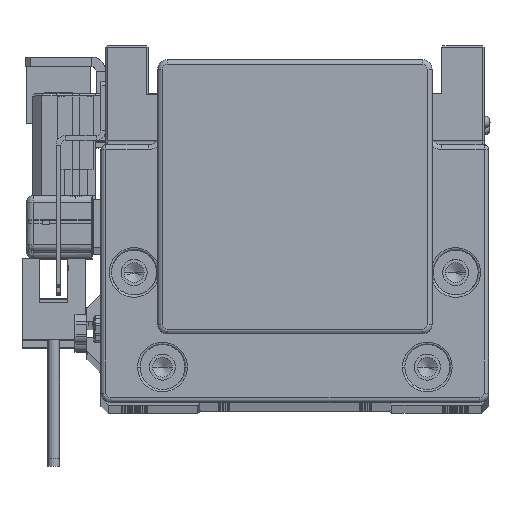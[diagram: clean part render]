
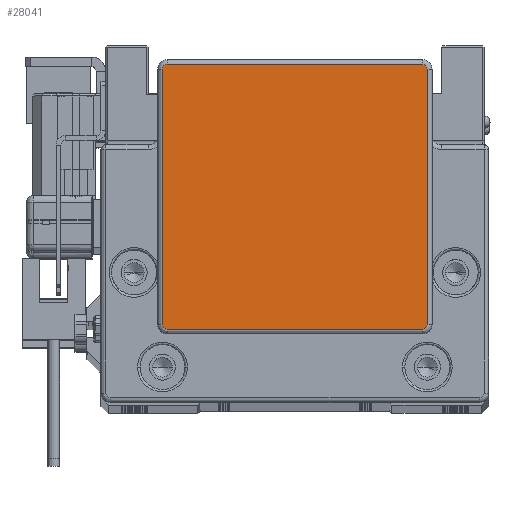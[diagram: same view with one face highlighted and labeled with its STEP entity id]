
A CAD part, top view. The second image highlights one B-rep face of the part: STEP entity #28041.
In plain terms, the highlighted planar face has unit normal (0, 0, 1).
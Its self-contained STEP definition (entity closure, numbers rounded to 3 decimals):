
#71 = ORIENTED_EDGE ( 'NONE', *, *, #19617, .T. ) ;
#1530 = DIRECTION ( 'NONE',  ( 1., 0., 0. ) ) ;
#1636 = EDGE_CURVE ( 'NONE', #23384, #18280, #5628, .T. ) ;
#2102 = CARTESIAN_POINT ( 'NONE',  ( -27., -19.75, 17. ) ) ;
#2563 = ORIENTED_EDGE ( 'NONE', *, *, #26200, .T. ) ;
#2907 = DIRECTION ( 'NONE',  ( 1., 0., 0. ) ) ;
#5628 = LINE ( 'NONE', #15242, #36863 ) ;
#7070 = VERTEX_POINT ( 'NONE', #51657 ) ;
#7829 = AXIS2_PLACEMENT_3D ( 'NONE', #30378, #21689, #1530 ) ;
#8802 = CIRCLE ( 'NONE', #7829, 1. ) ;
#9562 = VERTEX_POINT ( 'NONE', #32036 ) ;
#12345 = AXIS2_PLACEMENT_3D ( 'NONE', #45450, #37058, #2907 ) ;
#12984 = VECTOR ( 'NONE', #14502, 1000. ) ;
#13807 = CARTESIAN_POINT ( 'NONE',  ( 27., -20.75, 17. ) ) ;
#14120 = DIRECTION ( 'NONE',  ( 1., 0., 0. ) ) ;
#14502 = DIRECTION ( 'NONE',  ( 0., 1., 0. ) ) ;
#15122 = LINE ( 'NONE', #38121, #12984 ) ;
#15242 = CARTESIAN_POINT ( 'NONE',  ( -28., -19.75, 17. ) ) ;
#15747 = VERTEX_POINT ( 'NONE', #24841 ) ;
#16095 = VECTOR ( 'NONE', #36791, 1000. ) ;
#16917 = CARTESIAN_POINT ( 'NONE',  ( -28., 34.25, 17. ) ) ;
#16958 = DIRECTION ( 'NONE',  ( 0., 0., 1. ) ) ;
#16964 = VERTEX_POINT ( 'NONE', #44157 ) ;
#17886 = CARTESIAN_POINT ( 'NONE',  ( 27., -19.75, 17. ) ) ;
#18038 = CARTESIAN_POINT ( 'NONE',  ( -27., 34.25, 17. ) ) ;
#18280 = VERTEX_POINT ( 'NONE', #26460 ) ;
#19617 = EDGE_CURVE ( 'NONE', #7070, #15747, #37585, .T. ) ;
#19802 = CARTESIAN_POINT ( 'NONE',  ( -27., -20.75, 17. ) ) ;
#20740 = PLANE ( 'NONE',  #53682 ) ;
#21257 = LINE ( 'NONE', #21567, #16095 ) ;
#21567 = CARTESIAN_POINT ( 'NONE',  ( -27., 35.25, 17. ) ) ;
#21689 = DIRECTION ( 'NONE',  ( 0., 0., 1. ) ) ;
#21731 = EDGE_LOOP ( 'NONE', ( #49126, #23422, #58097, #40400, #54291, #71, #39904, #2563 ) ) ;
#22702 = DIRECTION ( 'NONE',  ( 0., 0., 1. ) ) ;
#23384 = VERTEX_POINT ( 'NONE', #16917 ) ;
#23422 = ORIENTED_EDGE ( 'NONE', *, *, #55055, .T. ) ;
#24841 = CARTESIAN_POINT ( 'NONE',  ( 28., -19.75, 17. ) ) ;
#24968 = AXIS2_PLACEMENT_3D ( 'NONE', #18038, #22702, #55025 ) ;
#25419 = FACE_OUTER_BOUND ( 'NONE', #21731, .T. ) ;
#26200 = EDGE_CURVE ( 'NONE', #28079, #16964, #39147, .T. ) ;
#26460 = CARTESIAN_POINT ( 'NONE',  ( -28., -19.75, 17. ) ) ;
#28041 = ADVANCED_FACE ( 'NONE', ( #25419 ), #20740, .T. ) ;
#28079 = VERTEX_POINT ( 'NONE', #51150 ) ;
#28595 = DIRECTION ( 'NONE',  ( 0., -1., 0. ) ) ;
#30378 = CARTESIAN_POINT ( 'NONE',  ( -27., -19.75, 17. ) ) ;
#32036 = CARTESIAN_POINT ( 'NONE',  ( -27., 35.25, 17. ) ) ;
#36791 = DIRECTION ( 'NONE',  ( -1., 0., 0. ) ) ;
#36863 = VECTOR ( 'NONE', #28595, 1000. ) ;
#37058 = DIRECTION ( 'NONE',  ( 0., 0., 1. ) ) ;
#37585 = CIRCLE ( 'NONE', #44512, 1. ) ;
#38121 = CARTESIAN_POINT ( 'NONE',  ( 28., 34.25, 17. ) ) ;
#38680 = EDGE_CURVE ( 'NONE', #18280, #39490, #8802, .T. ) ;
#39147 = CIRCLE ( 'NONE', #12345, 1. ) ;
#39490 = VERTEX_POINT ( 'NONE', #19802 ) ;
#39904 = ORIENTED_EDGE ( 'NONE', *, *, #53422, .T. ) ;
#39995 = DIRECTION ( 'NONE',  ( 0., 0., 1. ) ) ;
#40400 = ORIENTED_EDGE ( 'NONE', *, *, #38680, .T. ) ;
#44157 = CARTESIAN_POINT ( 'NONE',  ( 27., 35.25, 17. ) ) ;
#44512 = AXIS2_PLACEMENT_3D ( 'NONE', #17886, #16958, #45836 ) ;
#44950 = DIRECTION ( 'NONE',  ( 1., 0., 0. ) ) ;
#45450 = CARTESIAN_POINT ( 'NONE',  ( 27., 34.25, 17. ) ) ;
#45753 = CIRCLE ( 'NONE', #24968, 1. ) ;
#45836 = DIRECTION ( 'NONE',  ( 1., 0., 0. ) ) ;
#48347 = EDGE_CURVE ( 'NONE', #39490, #7070, #57616, .T. ) ;
#49126 = ORIENTED_EDGE ( 'NONE', *, *, #58706, .T. ) ;
#50159 = VECTOR ( 'NONE', #14120, 1000. ) ;
#51150 = CARTESIAN_POINT ( 'NONE',  ( 28., 34.25, 17. ) ) ;
#51657 = CARTESIAN_POINT ( 'NONE',  ( 27., -20.75, 17. ) ) ;
#53422 = EDGE_CURVE ( 'NONE', #15747, #28079, #15122, .T. ) ;
#53682 = AXIS2_PLACEMENT_3D ( 'NONE', #2102, #39995, #44950 ) ;
#54291 = ORIENTED_EDGE ( 'NONE', *, *, #48347, .T. ) ;
#55025 = DIRECTION ( 'NONE',  ( 1., 0., 0. ) ) ;
#55055 = EDGE_CURVE ( 'NONE', #9562, #23384, #45753, .T. ) ;
#57616 = LINE ( 'NONE', #13807, #50159 ) ;
#58097 = ORIENTED_EDGE ( 'NONE', *, *, #1636, .T. ) ;
#58706 = EDGE_CURVE ( 'NONE', #16964, #9562, #21257, .T. ) ;
